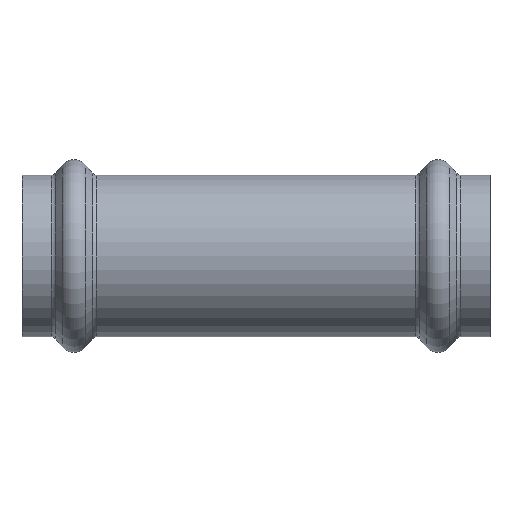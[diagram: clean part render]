
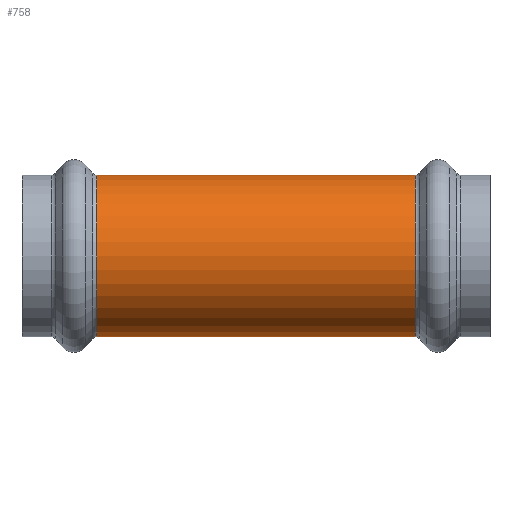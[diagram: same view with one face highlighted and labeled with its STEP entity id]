
A CAD part, front view. The second image highlights one B-rep face of the part: STEP entity #758.
In plain terms, the highlighted cylindrical face has radius 15.55 mm (diameter 31.1 mm), a partial arc.
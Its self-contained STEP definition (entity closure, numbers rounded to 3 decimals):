
#44 = CYLINDRICAL_SURFACE ( 'NONE', #3938, 15.55 ) ;
#48 = LINE ( 'NONE', #3878, #4045 ) ;
#70 = DIRECTION ( 'NONE',  ( -1., 0., 0. ) ) ;
#126 = CARTESIAN_POINT ( 'NONE',  ( -30.629, 0., 15.55 ) ) ;
#133 = DIRECTION ( 'NONE',  ( 0., 0., 1. ) ) ;
#140 = EDGE_CURVE ( 'NONE', #260, #3430, #3152, .T. ) ;
#150 = DIRECTION ( 'NONE',  ( -1., 0., 0. ) ) ;
#175 = CARTESIAN_POINT ( 'NONE',  ( 30.629, 0., 0. ) ) ;
#260 = VERTEX_POINT ( 'NONE', #2154 ) ;
#377 = ORIENTED_EDGE ( 'NONE', *, *, #140, .F. ) ;
#626 = DIRECTION ( 'NONE',  ( -1., 0., 0. ) ) ;
#758 = ADVANCED_FACE ( 'NONE', ( #1311 ), #44, .T. ) ;
#878 = VERTEX_POINT ( 'NONE', #126 ) ;
#925 = CARTESIAN_POINT ( 'NONE',  ( -58.611, 0., -15.55 ) ) ;
#1112 = EDGE_CURVE ( 'NONE', #4059, #878, #48, .T. ) ;
#1276 = AXIS2_PLACEMENT_3D ( 'NONE', #3863, #3846, #3836 ) ;
#1288 = EDGE_CURVE ( 'NONE', #878, #3430, #1383, .T. ) ;
#1311 = FACE_OUTER_BOUND ( 'NONE', #3792, .T. ) ;
#1383 = CIRCLE ( 'NONE', #1276, 15.55 ) ;
#1570 = CIRCLE ( 'NONE', #3208, 15.55 ) ;
#2154 = CARTESIAN_POINT ( 'NONE',  ( 30.629, 0., -15.55 ) ) ;
#3152 = LINE ( 'NONE', #925, #4708 ) ;
#3164 = CARTESIAN_POINT ( 'NONE',  ( -30.629, 0., -15.55 ) ) ;
#3208 = AXIS2_PLACEMENT_3D ( 'NONE', #175, #150, #133 ) ;
#3430 = VERTEX_POINT ( 'NONE', #3164 ) ;
#3722 = CARTESIAN_POINT ( 'NONE',  ( 30.629, 0., 15.55 ) ) ;
#3792 = EDGE_LOOP ( 'NONE', ( #377, #4010, #4334, #4375 ) ) ;
#3836 = DIRECTION ( 'NONE',  ( 0., 0., -1. ) ) ;
#3846 = DIRECTION ( 'NONE',  ( 1., 0., 0. ) ) ;
#3853 = DIRECTION ( 'NONE',  ( 0., 0., 1. ) ) ;
#3858 = DIRECTION ( 'NONE',  ( -1., 0., 0. ) ) ;
#3863 = CARTESIAN_POINT ( 'NONE',  ( -30.629, 0., 0. ) ) ;
#3878 = CARTESIAN_POINT ( 'NONE',  ( -58.611, 0., 15.55 ) ) ;
#3938 = AXIS2_PLACEMENT_3D ( 'NONE', #4666, #3858, #3853 ) ;
#4010 = ORIENTED_EDGE ( 'NONE', *, *, #4731, .T. ) ;
#4045 = VECTOR ( 'NONE', #70, 1000. ) ;
#4059 = VERTEX_POINT ( 'NONE', #3722 ) ;
#4334 = ORIENTED_EDGE ( 'NONE', *, *, #1112, .T. ) ;
#4375 = ORIENTED_EDGE ( 'NONE', *, *, #1288, .T. ) ;
#4666 = CARTESIAN_POINT ( 'NONE',  ( -58.611, 0., 0. ) ) ;
#4708 = VECTOR ( 'NONE', #626, 1000. ) ;
#4731 = EDGE_CURVE ( 'NONE', #260, #4059, #1570, .T. ) ;
